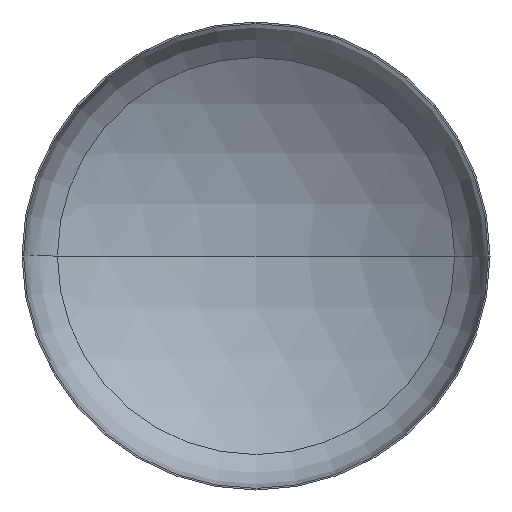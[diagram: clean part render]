
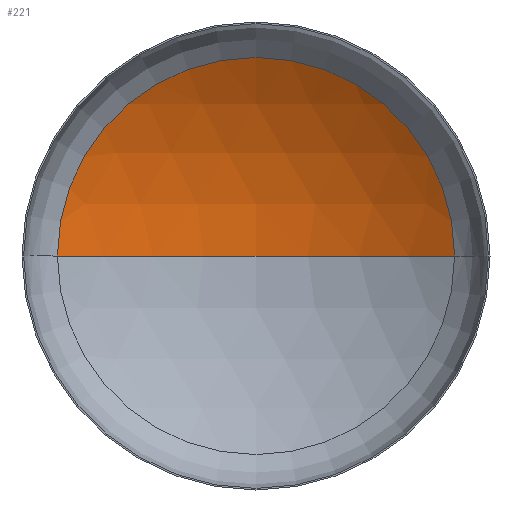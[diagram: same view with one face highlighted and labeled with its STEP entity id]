
A CAD part, front view. The second image highlights one B-rep face of the part: STEP entity #221.
In plain terms, the highlighted spherical face has radius 4000 mm.
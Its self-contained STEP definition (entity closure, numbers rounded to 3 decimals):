
#14 = DIRECTION ( 'NONE',  ( -1., 0., 0. ) ) ;
#16 = VERTEX_POINT ( 'NONE', #274 ) ;
#40 = EDGE_LOOP ( 'NONE', ( #333, #282, #93 ) ) ;
#44 = VERTEX_POINT ( 'NONE', #346 ) ;
#47 = AXIS2_PLACEMENT_3D ( 'NONE', #199, #202, #253 ) ;
#51 = DIRECTION ( 'NONE',  ( 0., -1., 0. ) ) ;
#62 = AXIS2_PLACEMENT_3D ( 'NONE', #218, #392, #345 ) ;
#66 = AXIS2_PLACEMENT_3D ( 'NONE', #188, #263, #14 ) ;
#67 = AXIS2_PLACEMENT_3D ( 'NONE', #170, #51, #266 ) ;
#84 = VERTEX_POINT ( 'NONE', #212 ) ;
#93 = ORIENTED_EDGE ( 'NONE', *, *, #110, .T. ) ;
#110 = EDGE_CURVE ( 'NONE', #16, #84, #401, .T. ) ;
#114 = EDGE_CURVE ( 'NONE', #44, #16, #201, .T. ) ;
#116 = EDGE_CURVE ( 'NONE', #44, #84, #265, .T. ) ;
#170 = CARTESIAN_POINT ( 'NONE',  ( 0., 707.794, 0. ) ) ;
#183 = FACE_OUTER_BOUND ( 'NONE', #40, .T. ) ;
#188 = CARTESIAN_POINT ( 'NONE',  ( 0., -2683.345, 0. ) ) ;
#199 = CARTESIAN_POINT ( 'NONE',  ( 0., -2683.345, 0. ) ) ;
#201 = CIRCLE ( 'NONE', #66, 4000. ) ;
#202 = DIRECTION ( 'NONE',  ( 0., 0., -1. ) ) ;
#212 = CARTESIAN_POINT ( 'NONE',  ( -2121.362, 707.794, 0. ) ) ;
#218 = CARTESIAN_POINT ( 'NONE',  ( 0., -2683.345, 0. ) ) ;
#221 = ADVANCED_FACE ( 'NONE', ( #183 ), #320, .F. ) ;
#253 = DIRECTION ( 'NONE',  ( -1., 0., 0. ) ) ;
#263 = DIRECTION ( 'NONE',  ( 0., 0., -1. ) ) ;
#265 = CIRCLE ( 'NONE', #62, 4000. ) ;
#266 = DIRECTION ( 'NONE',  ( 1., 0., 0. ) ) ;
#274 = CARTESIAN_POINT ( 'NONE',  ( 2121.362, 707.794, 0. ) ) ;
#282 = ORIENTED_EDGE ( 'NONE', *, *, #114, .T. ) ;
#320 = SPHERICAL_SURFACE ( 'NONE', #47, 4000. ) ;
#333 = ORIENTED_EDGE ( 'NONE', *, *, #116, .F. ) ;
#345 = DIRECTION ( 'NONE',  ( 1., 0., 0. ) ) ;
#346 = CARTESIAN_POINT ( 'NONE',  ( 0., 1316.655, 0. ) ) ;
#392 = DIRECTION ( 'NONE',  ( 0., 0., 1. ) ) ;
#401 = CIRCLE ( 'NONE', #67, 2121.362 ) ;
